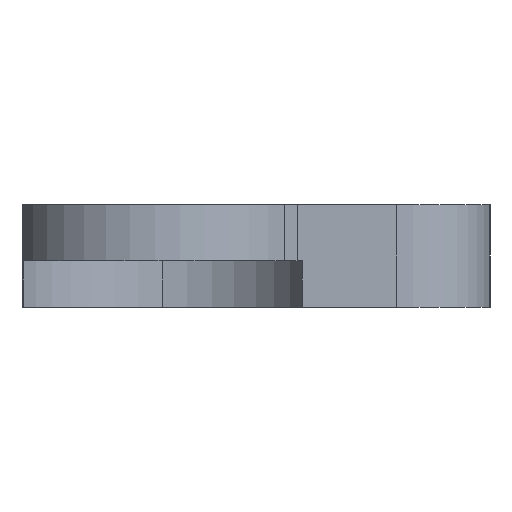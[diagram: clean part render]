
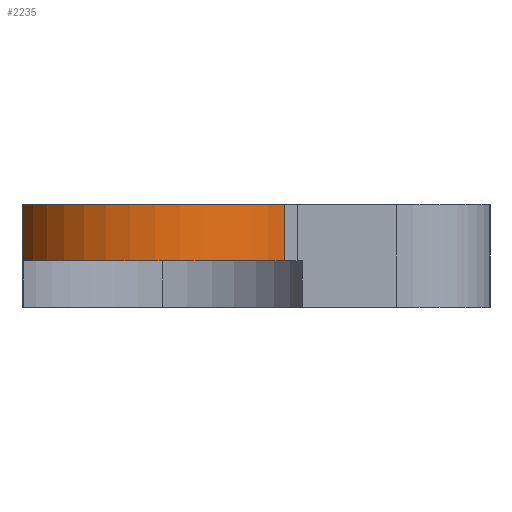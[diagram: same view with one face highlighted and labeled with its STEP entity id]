
A CAD part, left-side view. The second image highlights one B-rep face of the part: STEP entity #2235.
In plain terms, the highlighted cylindrical face has radius 3.2 mm (diameter 6.4 mm), a partial arc.
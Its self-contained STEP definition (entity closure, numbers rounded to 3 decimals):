
#1571 = PLANE('',#1572);
#1572 = AXIS2_PLACEMENT_3D('',#1573,#1574,#1575);
#1573 = CARTESIAN_POINT('',(-14.,64.,-20.33));
#1574 = DIRECTION('',(0.,0.,1.));
#1575 = DIRECTION('',(1.,0.,-0.));
#1841 = PLANE('',#1842);
#1842 = AXIS2_PLACEMENT_3D('',#1843,#1844,#1845);
#1843 = CARTESIAN_POINT('',(-14.,64.,-19.13));
#1844 = DIRECTION('',(0.,0.,1.));
#1845 = DIRECTION('',(1.,0.,-0.));
#1909 = VERTEX_POINT('',#1910);
#1910 = CARTESIAN_POINT('',(-15.114,67.,-20.33));
#1923 = PLANE('',#1924);
#1924 = AXIS2_PLACEMENT_3D('',#1925,#1926,#1927);
#1925 = CARTESIAN_POINT('',(-18.,67.,-22.));
#1926 = DIRECTION('',(-0.,1.,0.));
#1927 = DIRECTION('',(0.,0.,1.));
#1934 = EDGE_CURVE('',#1909,#1935,#1937,.T.);
#1935 = VERTEX_POINT('',#1936);
#1936 = CARTESIAN_POINT('',(-15.865,61.4,-20.33));
#1937 = SURFACE_CURVE('',#1938,(#1943,#1950),.PCURVE_S1.);
#1938 = CIRCLE('',#1939,3.2);
#1939 = AXIS2_PLACEMENT_3D('',#1940,#1941,#1942);
#1940 = CARTESIAN_POINT('',(-14.,64.,-20.33));
#1941 = DIRECTION('',(0.,0.,1.));
#1942 = DIRECTION('',(1.,0.,-0.));
#1943 = PCURVE('',#1571,#1944);
#1944 = DEFINITIONAL_REPRESENTATION('',(#1945),#1949);
#1945 = CIRCLE('',#1946,3.2);
#1946 = AXIS2_PLACEMENT_2D('',#1947,#1948);
#1947 = CARTESIAN_POINT('',(0.,0.));
#1948 = DIRECTION('',(1.,0.));
#1949 = ( GEOMETRIC_REPRESENTATION_CONTEXT(2) 
PARAMETRIC_REPRESENTATION_CONTEXT() REPRESENTATION_CONTEXT('2D SPACE',''
  ) );
#1950 = PCURVE('',#1951,#1956);
#1951 = CYLINDRICAL_SURFACE('',#1952,3.2);
#1952 = AXIS2_PLACEMENT_3D('',#1953,#1954,#1955);
#1953 = CARTESIAN_POINT('',(-14.,64.,-21.33));
#1954 = DIRECTION('',(0.,0.,1.));
#1955 = DIRECTION('',(1.,0.,-0.));
#1956 = DEFINITIONAL_REPRESENTATION('',(#1957),#1961);
#1957 = LINE('',#1958,#1959);
#1958 = CARTESIAN_POINT('',(0.,1.));
#1959 = VECTOR('',#1960,1.);
#1960 = DIRECTION('',(1.,0.));
#1961 = ( GEOMETRIC_REPRESENTATION_CONTEXT(2) 
PARAMETRIC_REPRESENTATION_CONTEXT() REPRESENTATION_CONTEXT('2D SPACE',''
  ) );
#1978 = PLANE('',#1979);
#1979 = AXIS2_PLACEMENT_3D('',#1980,#1981,#1982);
#1980 = CARTESIAN_POINT('',(-18.,61.4,-22.));
#1981 = DIRECTION('',(-0.,1.,0.));
#1982 = DIRECTION('',(0.,0.,1.));
#2119 = VERTEX_POINT('',#2120);
#2120 = CARTESIAN_POINT('',(-15.865,61.4,-19.13));
#2143 = VERTEX_POINT('',#2144);
#2144 = CARTESIAN_POINT('',(-15.114,67.,-19.13));
#2163 = EDGE_CURVE('',#2143,#2119,#2164,.T.);
#2164 = SURFACE_CURVE('',#2165,(#2170,#2177),.PCURVE_S1.);
#2165 = CIRCLE('',#2166,3.2);
#2166 = AXIS2_PLACEMENT_3D('',#2167,#2168,#2169);
#2167 = CARTESIAN_POINT('',(-14.,64.,-19.13));
#2168 = DIRECTION('',(0.,0.,1.));
#2169 = DIRECTION('',(1.,0.,-0.));
#2170 = PCURVE('',#1841,#2171);
#2171 = DEFINITIONAL_REPRESENTATION('',(#2172),#2176);
#2172 = CIRCLE('',#2173,3.2);
#2173 = AXIS2_PLACEMENT_2D('',#2174,#2175);
#2174 = CARTESIAN_POINT('',(0.,0.));
#2175 = DIRECTION('',(1.,0.));
#2176 = ( GEOMETRIC_REPRESENTATION_CONTEXT(2) 
PARAMETRIC_REPRESENTATION_CONTEXT() REPRESENTATION_CONTEXT('2D SPACE',''
  ) );
#2177 = PCURVE('',#1951,#2178);
#2178 = DEFINITIONAL_REPRESENTATION('',(#2179),#2183);
#2179 = LINE('',#2180,#2181);
#2180 = CARTESIAN_POINT('',(0.,2.2));
#2181 = VECTOR('',#2182,1.);
#2182 = DIRECTION('',(1.,0.));
#2183 = ( GEOMETRIC_REPRESENTATION_CONTEXT(2) 
PARAMETRIC_REPRESENTATION_CONTEXT() REPRESENTATION_CONTEXT('2D SPACE',''
  ) );
#2216 = EDGE_CURVE('',#1935,#2119,#2217,.T.);
#2217 = SURFACE_CURVE('',#2218,(#2222,#2228),.PCURVE_S1.);
#2218 = LINE('',#2219,#2220);
#2219 = CARTESIAN_POINT('',(-15.865,61.4,-21.33));
#2220 = VECTOR('',#2221,1.);
#2221 = DIRECTION('',(0.,0.,1.));
#2222 = PCURVE('',#1978,#2223);
#2223 = DEFINITIONAL_REPRESENTATION('',(#2224),#2227);
#2224 = B_SPLINE_CURVE_WITH_KNOTS('',1,(#2225,#2226),.UNSPECIFIED.,.F.,
  .F.,(2,2),(0.,2.2),.PIECEWISE_BEZIER_KNOTS.);
#2225 = CARTESIAN_POINT('',(0.67,2.135));
#2226 = CARTESIAN_POINT('',(2.87,2.135));
#2227 = ( GEOMETRIC_REPRESENTATION_CONTEXT(2) 
PARAMETRIC_REPRESENTATION_CONTEXT() REPRESENTATION_CONTEXT('2D SPACE',''
  ) );
#2228 = PCURVE('',#1951,#2229);
#2229 = DEFINITIONAL_REPRESENTATION('',(#2230),#2233);
#2230 = B_SPLINE_CURVE_WITH_KNOTS('',1,(#2231,#2232),.UNSPECIFIED.,.F.,
  .F.,(2,2),(0.,2.2),.PIECEWISE_BEZIER_KNOTS.);
#2231 = CARTESIAN_POINT('',(4.09,0.));
#2232 = CARTESIAN_POINT('',(4.09,2.2));
#2233 = ( GEOMETRIC_REPRESENTATION_CONTEXT(2) 
PARAMETRIC_REPRESENTATION_CONTEXT() REPRESENTATION_CONTEXT('2D SPACE',''
  ) );
#2235 = ADVANCED_FACE('',(#2236),#1951,.T.);
#2236 = FACE_BOUND('',#2237,.T.);
#2237 = EDGE_LOOP('',(#2238,#2239,#2258,#2259));
#2238 = ORIENTED_EDGE('',*,*,#2163,.F.);
#2239 = ORIENTED_EDGE('',*,*,#2240,.F.);
#2240 = EDGE_CURVE('',#1909,#2143,#2241,.T.);
#2241 = SURFACE_CURVE('',#2242,(#2246,#2252),.PCURVE_S1.);
#2242 = LINE('',#2243,#2244);
#2243 = CARTESIAN_POINT('',(-15.114,67.,-21.33));
#2244 = VECTOR('',#2245,1.);
#2245 = DIRECTION('',(0.,0.,1.));
#2246 = PCURVE('',#1951,#2247);
#2247 = DEFINITIONAL_REPRESENTATION('',(#2248),#2251);
#2248 = B_SPLINE_CURVE_WITH_KNOTS('',1,(#2249,#2250),.UNSPECIFIED.,.F.,
  .F.,(2,2),(0.,2.2),.PIECEWISE_BEZIER_KNOTS.);
#2249 = CARTESIAN_POINT('',(1.926,0.));
#2250 = CARTESIAN_POINT('',(1.926,2.2));
#2251 = ( GEOMETRIC_REPRESENTATION_CONTEXT(2) 
PARAMETRIC_REPRESENTATION_CONTEXT() REPRESENTATION_CONTEXT('2D SPACE',''
  ) );
#2252 = PCURVE('',#1923,#2253);
#2253 = DEFINITIONAL_REPRESENTATION('',(#2254),#2257);
#2254 = B_SPLINE_CURVE_WITH_KNOTS('',1,(#2255,#2256),.UNSPECIFIED.,.F.,
  .F.,(2,2),(0.,2.2),.PIECEWISE_BEZIER_KNOTS.);
#2255 = CARTESIAN_POINT('',(0.67,2.886));
#2256 = CARTESIAN_POINT('',(2.87,2.886));
#2257 = ( GEOMETRIC_REPRESENTATION_CONTEXT(2) 
PARAMETRIC_REPRESENTATION_CONTEXT() REPRESENTATION_CONTEXT('2D SPACE',''
  ) );
#2258 = ORIENTED_EDGE('',*,*,#1934,.T.);
#2259 = ORIENTED_EDGE('',*,*,#2216,.T.);
